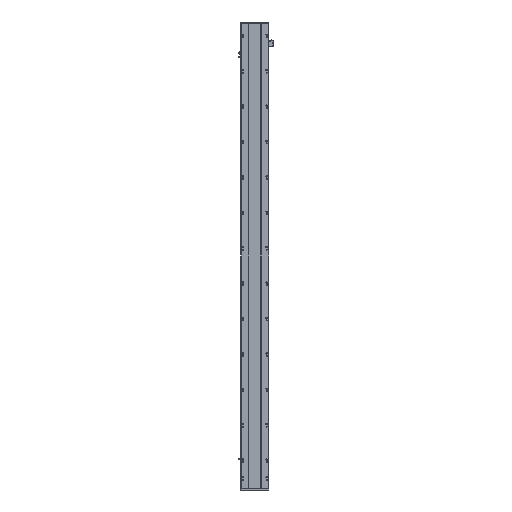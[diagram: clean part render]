
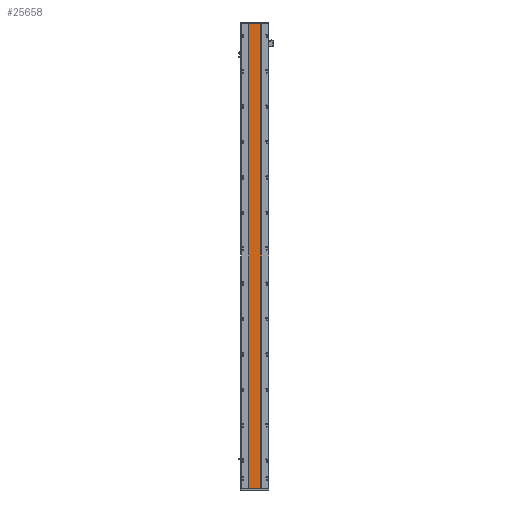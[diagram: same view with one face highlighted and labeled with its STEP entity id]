
A CAD part, front view. The second image highlights one B-rep face of the part: STEP entity #25658.
In plain terms, the highlighted planar face has unit normal (0, -1, 0).
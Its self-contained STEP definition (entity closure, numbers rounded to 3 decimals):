
#1016 = EDGE_CURVE ( 'NONE', #42506, #29681, #27732, .T. ) ;
#1576 = EDGE_CURVE ( 'NONE', #22894, #3193, #33391, .T. ) ;
#2525 = EDGE_CURVE ( 'NONE', #22894, #42506, #39547, .T. ) ;
#2833 = CARTESIAN_POINT ( 'NONE',  ( 129.288, 16.9, 2836. ) ) ;
#3151 = VECTOR ( 'NONE', #10242, 1000. ) ;
#3193 = VERTEX_POINT ( 'NONE', #15377 ) ;
#3335 = ORIENTED_EDGE ( 'NONE', *, *, #19796, .T. ) ;
#3657 = DIRECTION ( 'NONE',  ( -1., 0., 0. ) ) ;
#10242 = DIRECTION ( 'NONE',  ( 1., 0., 0. ) ) ;
#10564 = ORIENTED_EDGE ( 'NONE', *, *, #2525, .F. ) ;
#14495 = CARTESIAN_POINT ( 'NONE',  ( 205.288, 16.9, 0. ) ) ;
#15064 = LINE ( 'NONE', #34327, #28164 ) ;
#15377 = CARTESIAN_POINT ( 'NONE',  ( 129.288, 16.9, 0. ) ) ;
#16104 = CARTESIAN_POINT ( 'NONE',  ( 205.288, 16.9, 2836. ) ) ;
#18108 = CARTESIAN_POINT ( 'NONE',  ( 205.288, 16.9, 2836. ) ) ;
#19796 = EDGE_CURVE ( 'NONE', #3193, #29681, #15064, .T. ) ;
#22398 = AXIS2_PLACEMENT_3D ( 'NONE', #18108, #32755, #3657 ) ;
#22894 = VERTEX_POINT ( 'NONE', #28026 ) ;
#23019 = FACE_OUTER_BOUND ( 'NONE', #33026, .T. ) ;
#25048 = CARTESIAN_POINT ( 'NONE',  ( 129.288, 16.9, 2836. ) ) ;
#25292 = PLANE ( 'NONE',  #22398 ) ;
#25658 = ADVANCED_FACE ( 'NONE', ( #23019 ), #25292, .F. ) ;
#27732 = LINE ( 'NONE', #16104, #44753 ) ;
#28026 = CARTESIAN_POINT ( 'NONE',  ( 129.288, 16.9, 2836. ) ) ;
#28164 = VECTOR ( 'NONE', #45425, 1000. ) ;
#29681 = VERTEX_POINT ( 'NONE', #14495 ) ;
#30905 = DIRECTION ( 'NONE',  ( 0., 0., -1. ) ) ;
#31058 = CARTESIAN_POINT ( 'NONE',  ( 205.288, 16.9, 2836. ) ) ;
#32755 = DIRECTION ( 'NONE',  ( 0., 1., 0. ) ) ;
#33026 = EDGE_LOOP ( 'NONE', ( #3335, #35762, #10564, #45280 ) ) ;
#33391 = LINE ( 'NONE', #2833, #46434 ) ;
#34327 = CARTESIAN_POINT ( 'NONE',  ( 205.288, 16.9, 0. ) ) ;
#35762 = ORIENTED_EDGE ( 'NONE', *, *, #1016, .F. ) ;
#39547 = LINE ( 'NONE', #25048, #3151 ) ;
#42506 = VERTEX_POINT ( 'NONE', #31058 ) ;
#44753 = VECTOR ( 'NONE', #30905, 1000. ) ;
#45280 = ORIENTED_EDGE ( 'NONE', *, *, #1576, .T. ) ;
#45425 = DIRECTION ( 'NONE',  ( 1., 0., 0. ) ) ;
#46434 = VECTOR ( 'NONE', #46483, 1000. ) ;
#46483 = DIRECTION ( 'NONE',  ( 0., 0., -1. ) ) ;
